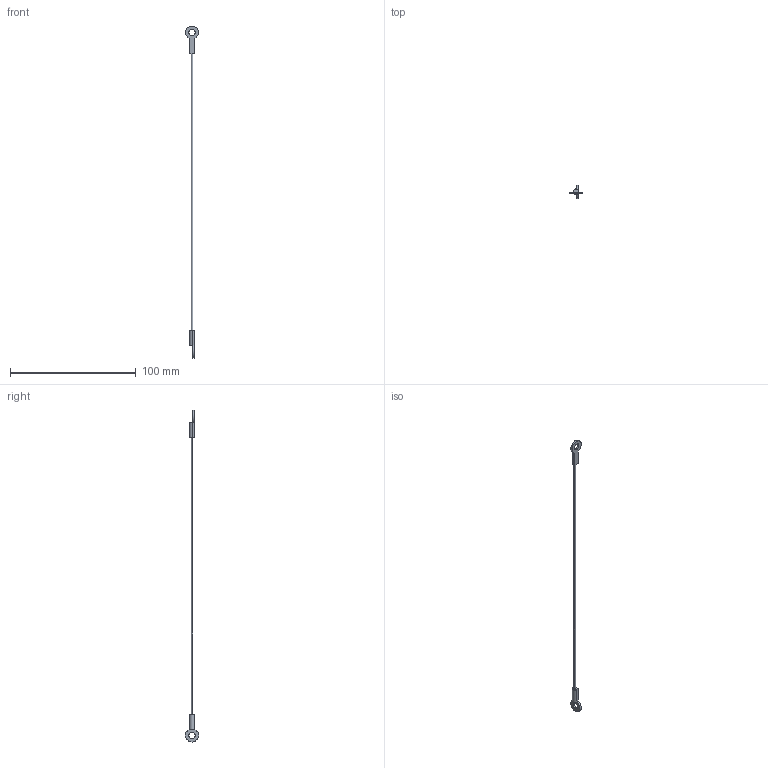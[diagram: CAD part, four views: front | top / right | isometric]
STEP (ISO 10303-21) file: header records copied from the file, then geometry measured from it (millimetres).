
FILE_DESCRIPTION (( 'STEP AP203' ), '1' );
FILE_NAME ('LA1070.I06-254C1.step', '2026-03-23T14:50:35', ( '' ), ( '' ), 'SwSTEP 2.0', 'SolidWorks 2019', '' );
FILE_SCHEMA (( 'CONFIG_CONTROL_DESIGN' ));
Length unit declared in the file: millimetre
Products named in the file (1): LA1070.I06-254C1
Bounding box: 10.4 x 10.38 x 264.39 mm (x, y, z)
Volume: 973.8 mm3; surface area: 1876.5 mm2
Topology: 1 solids, 1 shells, 27 faces, 65 edges, 42 vertices
Faces by surface type: plane 16, cylinder 11
Entity records: 874 total; most frequent: DIRECTION 143, CARTESIAN_POINT 135, ORIENTED_EDGE 130, EDGE_CURVE 65, AXIS2_PLACEMENT_3D 50, LINE 43, VECTOR 43, VERTEX_POINT 42
